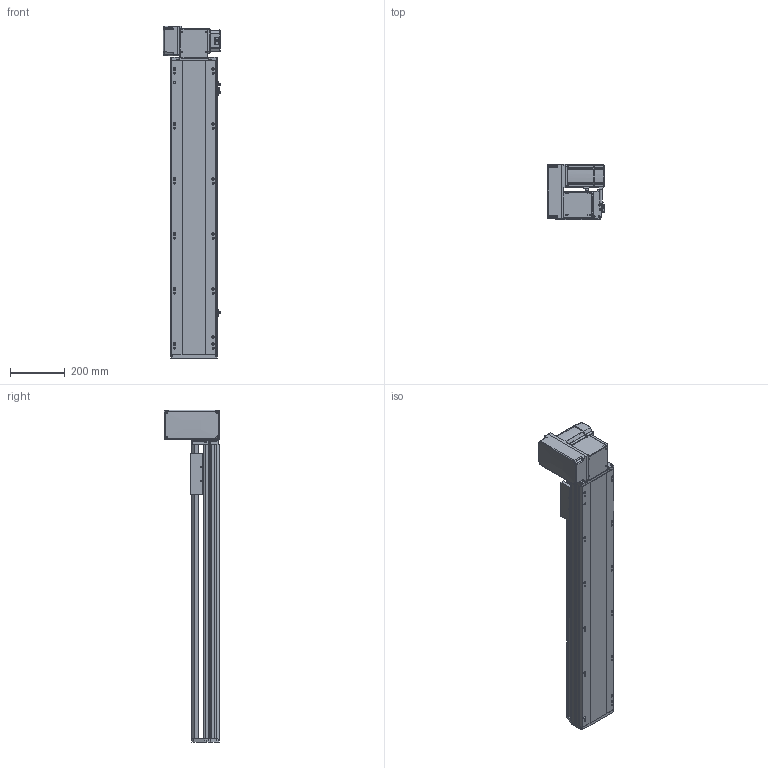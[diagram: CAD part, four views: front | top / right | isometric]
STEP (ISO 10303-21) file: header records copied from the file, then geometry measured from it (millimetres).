
FILE_DESCRIPTION (( 'STEP AP214' ), '1' );
FILE_NAME ('RTB17S-XX-800-LW-M75-C4.STEP', '2025-12-12T01:02:50', ( '' ), ( '' ), 'SwSTEP 2.0', 'SolidWorks 2018', '' );
FILE_SCHEMA (( 'AUTOMOTIVE_DESIGN' ));
Length unit declared in the file: millimetre
Products named in the file (15): RTB17S-L-014-T20-P75--々湍釱^RTB17S-LW-々湍釱蚾饜-750W_RTB17S-XX-XX-LW-M75-C4; EE672^RTB17S-XX-XX-LW-M75-C4; RTB17S-賑釱^RTB17S-XX-XX-LW-M75-C4; RTB17S-L-001-耜醱啣^RTB17S-XX-XX-LW-M75-C4; RTB17S-L-007奻裔^RTB17S-XX-XX-LW-M75-C4; RTB22S-GY-018P^RTB17S-LW-々湍釱蚾饜-750W_RTB17S-XX-XX-LW-M75-C4; RTB17S-XX-800-LW-M75-C4; RTB22S-GY-005P^RTB17S-LW-々湍釱蚾饜-750W_RTB17S-XX-XX-LW-M75-C4; RTB22S-GY-017P^RTB17S-LW-々湍釱蚾饜-750W_RTB17S-XX-XX-LW-M75-C4; RTB22S-GY-008-M75--萇儂啣^RTB17S-LW-々湍釱蚾饜-750W_RTB17S-XX-XX-LW-M75-C4; RTB17-R-011菁釱^RTB17S-XX-XX-LW-M75-C4; 750W萇儂^RTB17S-XX-XX-LW-M75-C4; RTB17S-L-004-賑釱^RTB17S-賑釱_RTB17S-XX-XX-LW-M75-C4; RTB17S-LW-々湍釱蚾饜-750W^RTB17S-XX-XX-LW-M75-C4; RTH13-BL-012覜茼え俋离^RTB17S-賑釱_RTB17S-XX-XX-LW-M75-C4
Assembly tree (17 placements, depth 3):
  RTB17S-XX-800-LW-M75-C4
    RTB17-R-011菁釱^RTB17S-XX-XX-LW-M75-C4
    EE672^RTB17S-XX-XX-LW-M75-C4  x3
    RTB17S-L-001-耜醱啣^RTB17S-XX-XX-LW-M75-C4
    RTB17S-賑釱^RTB17S-XX-XX-LW-M75-C4
      RTB17S-L-004-賑釱^RTB17S-賑釱_RTB17S-XX-XX-LW-M75-C4
      RTH13-BL-012覜茼え俋离^RTB17S-賑釱_RTB17S-XX-XX-LW-M75-C4
    RTB17S-L-007奻裔^RTB17S-XX-XX-LW-M75-C4
    750W萇儂^RTB17S-XX-XX-LW-M75-C4
    RTB17S-LW-々湍釱蚾饜-750W^RTB17S-XX-XX-LW-M75-C4
      RTB17S-L-014-T20-P75--々湍釱^RTB17S-LW-々湍釱蚾饜-750W_RTB17S-XX-XX-LW-M75-C4
      RTB22S-GY-005P^RTB17S-LW-々湍釱蚾饜-750W_RTB17S-XX-XX-LW-M75-C4
      RTB22S-GY-017P^RTB17S-LW-々湍釱蚾饜-750W_RTB17S-XX-XX-LW-M75-C4  x2
      RTB22S-GY-008-M75--萇儂啣^RTB17S-LW-々湍釱蚾饜-750W_RTB17S-XX-XX-LW-M75-C4
      RTB22S-GY-018P^RTB17S-LW-々湍釱蚾饜-750W_RTB17S-XX-XX-LW-M75-C4
Bounding box: 210.4 x 201.5 x 1207.5 mm (x, y, z)
Volume: 10953528.4 mm3; surface area: 1824353.9 mm2
Topology: 17 solids, 17 shells, 2073 faces, 5728 edges, 3698 vertices
Faces by surface type: plane 968, cylinder 689, bspline 294, cone 110, sphere 8, torus 4
Entity records: 57334 total; most frequent: CARTESIAN_POINT 16792, ORIENTED_EDGE 8300, DIRECTION 7772, EDGE_CURVE 4150, AXIS2_PLACEMENT_3D 2718, VERTEX_POINT 2702, LINE 2336, VECTOR 2336
